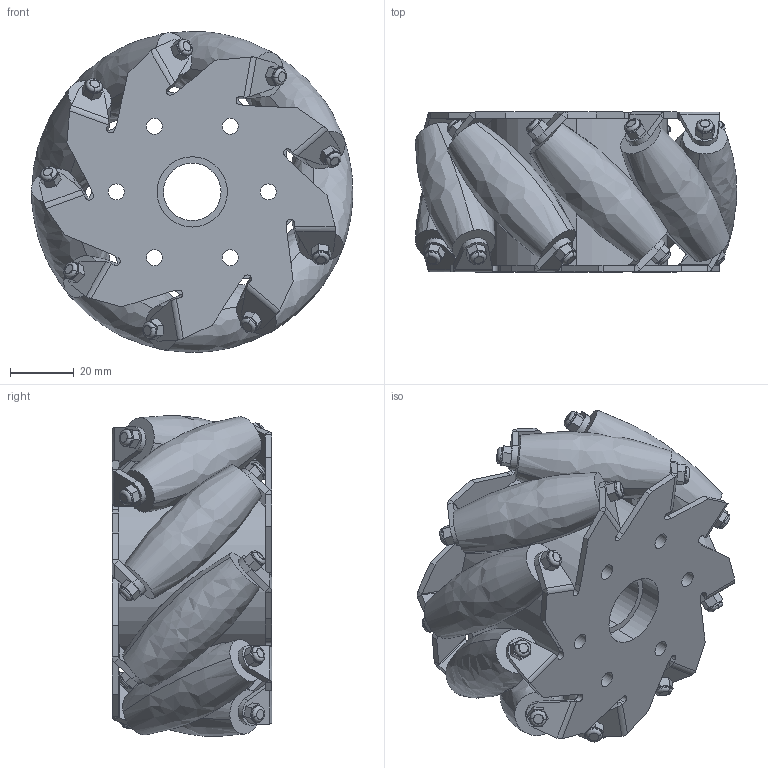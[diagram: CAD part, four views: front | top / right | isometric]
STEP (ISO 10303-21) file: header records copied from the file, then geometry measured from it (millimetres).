
FILE_DESCRIPTION( ('This file contains a STEP AP42 implementation' ,'as created by ZW3D STEP Interface translator.') ,'2;1' );
FILE_NAME( '100mm闔謫_衵.stp' ,'24 514.141132', (''), ('ZWCAD Software Co.'), 'Version 1.0', 'ZW3D to STEP translator', '' );
FILE_SCHEMA(('AUTOMOTIVE_DESIGN { 1 0 10303 214 1 1 1 1 }'));
Length unit declared in the file: millimetre
Products named in the file (2): 0; 100mm闔謫_衵
Bounding box: 100.56 x 50 x 100.52 mm (x, y, z)
Volume: 196570.1 mm3; surface area: 95783.1 mm2
Topology: 1 solids, 34 shells, 1042 faces, 2327 edges, 1480 vertices
Faces by surface type: plane 520, cylinder 396, torus 72, bspline 54
Full cylindrical faces by diameter (mm): 5 x6
Entity records: 32306 total; most frequent: CARTESIAN_POINT 7514, DIRECTION 5125, ORIENTED_EDGE 4654, EDGE_CURVE 2327, AXIS2_PLACEMENT_3D 1899, VERTEX_POINT 1480, VECTOR 1327, LINE 1327
